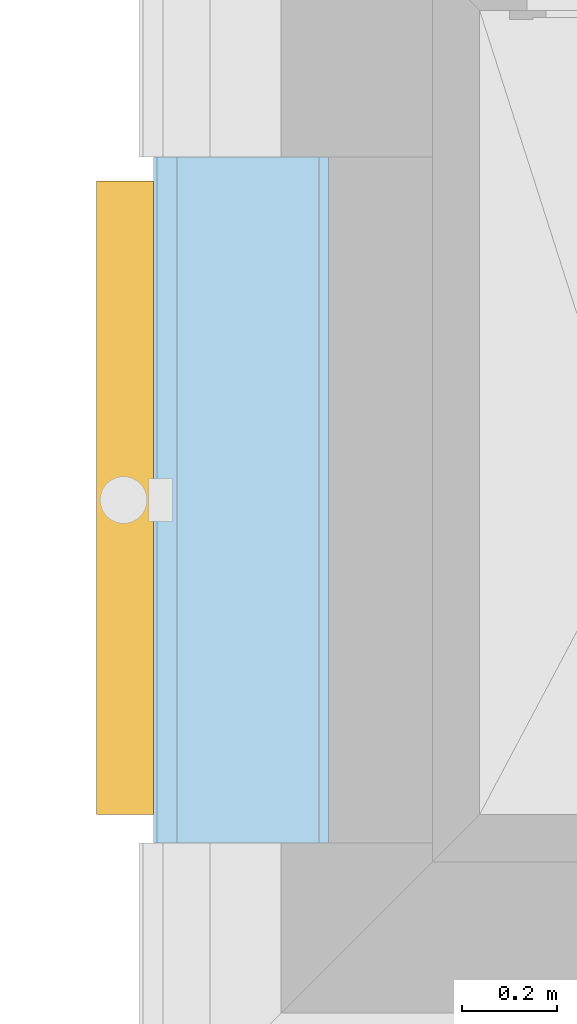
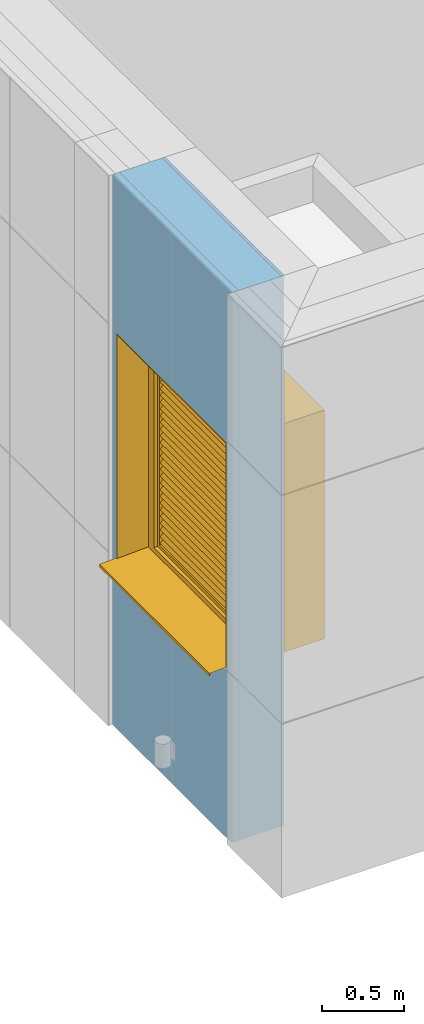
# One storey, part 112 of 418: 1 window, 2 openings, 1 element without a shape of its own, plus 4 elements that do not belong to this part.
"""IFC2X3 building model written with IfcOpenShell, lengths in millimetres."""

from ifc_helpers import new_model, entity, si_unit, converted_unit, derived_unit, money_unit, direction, frame, origin_with_axes, origin_2d_with_axis, place, context, subcontext, project, spatial, polyline, rectangle, outline, extrude, open_shell, faceted_brep, surface_model, material, type_object, element, fill, aggregate, save


model = new_model("IFC2X3")

# Units and contexts
model_context = context("Model", 3, precision=0.01, world=origin_with_axes(), true_north=direction((0.0, 1.0)))
body_context = subcontext(model_context, "Body", "Model", "MODEL_VIEW")
ifc_project = project(units=[si_unit("LENGTHUNIT", "METRE", prefix="MILLI"), si_unit("AREAUNIT", "SQUARE_METRE"), si_unit("VOLUMEUNIT", "CUBIC_METRE"), converted_unit("PLANEANGLEUNIT", "DEGREE", entity("IfcPlaneAngleMeasure", 0.0174532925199), si_unit("PLANEANGLEUNIT", "RADIAN"), dimensions=[0, 0, 0, 0, 0, 0, 0]), si_unit("SOLIDANGLEUNIT", "STERADIAN"), money_unit("EUR"), converted_unit("TIMEUNIT", "Year", entity("IfcTimeMeasure", 31556926.0), si_unit("TIMEUNIT", "SECOND"), dimensions=[0, 0, 1, 0, 0, 0, 0]), si_unit("MASSUNIT", "GRAM", prefix="KILO"), si_unit("THERMODYNAMICTEMPERATUREUNIT", "DEGREE_CELSIUS"), si_unit("LUMINOUSINTENSITYUNIT", "LUMEN"), si_unit("ENERGYUNIT", "JOULE", prefix="MEGA"), derived_unit("THERMALCONDUCTANCEUNIT", [(si_unit("POWERUNIT", "WATT"), 1), (si_unit("LENGTHUNIT", "METRE"), -1), (si_unit("THERMODYNAMICTEMPERATUREUNIT", "KELVIN"), -1)]), derived_unit("SPECIFICHEATCAPACITYUNIT", [(si_unit("ENERGYUNIT", "JOULE"), 1), (si_unit("MASSUNIT", "GRAM", prefix="KILO"), -1), (si_unit("THERMODYNAMICTEMPERATUREUNIT", "KELVIN"), -1)]), derived_unit("MASSDENSITYUNIT", [(si_unit("MASSUNIT", "GRAM", prefix="KILO"), 1), (si_unit("VOLUMEUNIT", "CUBIC_METRE"), -1)])], contexts=[model_context])

# Site, building, storey
site_placement = place(None, origin_with_axes())
site = spatial("IfcSite", under=ifc_project, at=site_placement, Name="Paldiski mnt 245/1, Tallinn, Harjumaa", CompositionType="COMPLEX")
building_placement = place(site_placement, origin_with_axes())
building = spatial("IfcBuilding", under=site, at=building_placement, Name="RKAS Hoone üldnimetus (kasutust iseloomustav) -> IFC Project Manager -> SOLIBRI", CompositionType="ELEMENT")
storey_placement = place(building_placement, origin_with_axes())
storey = spatial("IfcBuildingStorey", under=building, at=storey_placement, Name="Esimene korrus", CompositionType="ELEMENT", Elevation=0.0)

# Window
window_style = type_object("IfcWindowStyle", Name="Window 23", ConstructionType="NOTDEFINED", OperationType="SINGLE_PANEL", ParameterTakesPrecedence=False, Sizeable=False)
wall_placement = place(storey_placement, frame((-56609.9999767, 1619.99992126, 0.0), z_axis=(0.0, 0.0, 1.0), x_axis=(0.0, -1.0, 0.0)))
opening_1_placement = place(wall_placement, frame((719.999960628, 0.0, 1240.0), z_axis=(0.0, 0.0, 1.0), x_axis=(1.0, 0.0, 0.0)))
window_placement = place(opening_1_placement, frame((-669.999960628, 0.0, 0.0), z_axis=(0.0, 0.0, 1.0), x_axis=(1.0, 0.0, 0.0)))
window = element("IfcWindow", 1, at=window_placement, inside=storey, type_object=window_style, Name="VR-01", ObjectType="WINDOW", OverallHeight=1700.0, OverallWidth=1340.0, context=body_context, shape_type="SurfaceModel", body=[
    surface_model("IfcShellBasedSurfaceModel", [(1339.99992126, -151.0, 50.0), (0.0, -151.0, 50.0), (0.0, -151.0, 40.0), (1339.99992126, -151.0, 40.0), (0.0, -490.0, 24.5454545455), (1339.99992126, -490.0, 24.5454545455), (0.0, -490.0, 4.54545454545), (1339.99992126, -490.0, 4.54545454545), (0.0, -480.0, 14.5454545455), (1339.99992126, -480.0, 14.5454545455)], [open_shell([[[0, 1, 2, 3]], [[3, 2, 4, 5]], [[5, 4, 6, 7]], [[7, 6, 8, 9]]])]),
    faceted_brep([(0.0, -100.0, 0.0), (0.0, -100.0, 50.0), (0.0, 0.0, 41.2282460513), (0.0, 0.0, 0.0), (1339.99992126, -99.9999999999, 0.0), (1339.99992126, -99.9999999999, 50.0), (1339.99992126, 0.0, 41.2282460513), (1339.99992126, 320.0, 13.1586334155), (0.0, 320.0, 13.1586334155), (0.0, 320.0, 0.0), (1339.99992126, 320.0, 0.0), (1339.99992126, 0.0, 0.0)], [[[0, 1, 2, 3]], [[4, 5, 1, 0]], [[1, 5, 6, 7, 8, 2]], [[3, 2, 8, 9]], [[0, 3, 9, 10, 11, 4]], [[11, 6, 5, 4]], [[10, 7, 6, 11]], [[9, 8, 7, 10]]]),
    faceted_brep([(1339.99992126, -99.9999999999, 49.9912282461), (1339.99992126, -99.9999999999, 1700.0), (1289.99992126, -99.9999999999, 1650.0), (1289.99992126, -99.9999999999, 49.9912282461), (1339.99992126, 0.0, 41.2194742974), (1339.99992126, 0.0, 1700.0), (1289.99992126, 0.0, 1650.0), (1289.99992126, 0.0, 41.2194742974)], [[[0, 1, 2, 3]], [[4, 5, 1, 0]], [[6, 2, 1, 5]], [[3, 2, 6, 7]], [[7, 4, 0, 3]], [[7, 6, 5, 4]]]),
    faceted_brep([(50.0, -100.0, 49.9912282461), (50.0, -100.0, 1650.0), (0.0, -100.0, 1700.0), (0.0, -100.0, 49.9912282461), (50.0, 0.0, 41.2194742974), (50.0, 0.0, 1650.0), (0.0, 0.0, 1700.0), (0.0, 0.0, 41.2194742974)], [[[0, 1, 2, 3]], [[4, 5, 1, 0]], [[6, 2, 1, 5]], [[3, 2, 6, 7]], [[7, 4, 0, 3]], [[7, 6, 5, 4]]]),
    faceted_brep([(1289.99992126, -99.9999999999, 1650.0), (50.0, -100.0, 1650.0), (50.0, 0.0, 1650.0), (1289.99992126, 0.0, 1650.0), (1339.99992126, -99.9999999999, 1700.0), (0.0, -100.0, 1700.0), (0.0, 0.0, 1700.0), (1339.99992126, 0.0, 1700.0)], [[[0, 1, 2, 3]], [[0, 4, 5, 1]], [[1, 5, 6, 2]], [[3, 2, 6, 7]], [[4, 0, 3, 7]], [[5, 4, 7, 6]]]),
    faceted_brep([(1339.99992126, 0.0, 41.2194742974), (1339.99992126, 0.0, 1700.0), (1289.99992126, 0.0, 1650.0), (1289.99992126, 0.0, 41.2194742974), (1339.99992126, 320.0, 13.1498616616), (1339.99992126, 320.0, 1700.0), (1289.99992126, 320.0, 1650.0), (1289.99992126, 320.0, 13.1498616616)], [[[0, 1, 2, 3]], [[4, 5, 1, 0]], [[5, 6, 2, 1]], [[3, 2, 6, 7]], [[7, 4, 0, 3]], [[7, 6, 5, 4]]]),
    faceted_brep([(50.0, 0.0, 41.2194742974), (50.0, 0.0, 1650.0), (0.0, 0.0, 1700.0), (0.0, 0.0, 41.2194742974), (50.0, 320.0, 13.1498616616), (50.0, 320.0, 1650.0), (0.0, 320.0, 1700.0), (0.0, 320.0, 13.1498616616)], [[[0, 1, 2, 3]], [[4, 5, 1, 0]], [[5, 6, 2, 1]], [[3, 2, 6, 7]], [[7, 4, 0, 3]], [[7, 6, 5, 4]]]),
    faceted_brep([(1339.99992126, 320.0, 1700.0), (1339.99992126, 0.0, 1700.0), (1289.99992126, 0.0, 1650.0), (1289.99992126, 320.0, 1650.0), (0.0, 320.0, 1700.0), (0.0, 0.0, 1700.0), (50.0, 0.0, 1650.0), (50.0, 320.0, 1650.0)], [[[0, 1, 2, 3]], [[4, 5, 1, 0]], [[1, 5, 6, 2]], [[3, 2, 6, 7]], [[0, 3, 7, 4]], [[7, 6, 5, 4]]]),
    faceted_brep([(1331.99992126, -150.0, 4.54545454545), (1331.99992126, -150.0, 0.0), (1331.99992126, -370.0, 0.0), (1331.99992126, -370.0, 4.54545454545), (1339.99992126, -150.0, 4.54545454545), (1339.99992126, -150.0, 0.0), (1339.99992126, -370.0, 0.0), (1339.99992126, -370.0, 4.54545454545)], [[[0, 1, 2, 3]], [[4, 5, 1, 0]], [[1, 5, 6, 2]], [[3, 2, 6, 7]], [[7, 4, 0, 3]], [[7, 6, 5, 4]]]),
    faceted_brep([(1331.99992126, -370.0, 30.0160901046), (1331.99992126, -370.0, 1692.0), (1331.99992126, -150.0, 1692.0), (1331.99992126, -150.0, 50.0), (1331.99992126, -151.0, 50.0), (1331.99992126, -151.0, 40.0), (1339.99992126, -370.0, 30.0160901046), (1339.99992126, -370.0, 1700.0), (1339.99992126, -150.0, 1700.0), (1339.99992126, -150.0, 50.0), (1339.99992126, -151.0, 50.0), (1339.99992126, -151.0, 40.0)], [[[0, 1, 2, 3, 4, 5]], [[6, 7, 1, 0]], [[8, 2, 1, 7]], [[3, 2, 8, 9]], [[3, 9, 10, 4]], [[4, 10, 11, 5]], [[5, 11, 6, 0]], [[11, 10, 9, 8, 7, 6]]]),
    faceted_brep([(0.0, -150.0, 4.54545454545), (0.0, -150.0, 0.0), (0.0, -370.0, 0.0), (0.0, -370.0, 4.54545454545), (7.99999999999, -150.0, 4.54545454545), (7.99999999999, -150.0, 0.0), (8.0, -370.0, 0.0), (8.0, -370.0, 4.54545454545)], [[[0, 1, 2, 3]], [[4, 5, 1, 0]], [[1, 5, 6, 2]], [[3, 2, 6, 7]], [[7, 4, 0, 3]], [[7, 6, 5, 4]]]),
    faceted_brep([(0.0, -370.0, 30.0160901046), (0.0, -370.0, 1700.0), (0.0, -150.0, 1700.0), (0.0, -150.0, 50.0), (0.0, -151.0, 50.0), (0.0, -151.0, 40.0), (8.0, -370.0, 30.0160901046), (8.0, -370.0, 1692.0), (7.99999999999, -150.0, 1692.0), (7.99999999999, -150.0, 50.0), (7.99999999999, -151.0, 50.0), (7.99999999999, -151.0, 40.0)], [[[0, 1, 2, 3, 4, 5]], [[6, 7, 1, 0]], [[8, 2, 1, 7]], [[3, 2, 8, 9]], [[3, 9, 10, 4]], [[4, 10, 11, 5]], [[5, 11, 6, 0]], [[11, 10, 9, 8, 7, 6]]]),
    faceted_brep([(1339.99992126, -150.0, 1700.0), (1339.99992126, -370.0, 1700.0), (1331.99992126, -370.0, 1692.0), (1331.99992126, -150.0, 1692.0), (0.0, -150.0, 1700.0), (0.0, -370.0, 1700.0), (8.0, -370.0, 1692.0), (7.99999999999, -150.0, 1692.0)], [[[0, 1, 2, 3]], [[4, 5, 1, 0]], [[1, 5, 6, 2]], [[3, 2, 6, 7]], [[0, 3, 7, 4]], [[7, 6, 5, 4]]]),
    faceted_brep([(1289.99992126, -99.9999999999, 1625.0), (1289.99992126, -125.0, 1625.0), (1264.99992126, -125.0, 1625.0), (1264.99992126, -150.0, 1625.0), (1339.99992126, -150.0, 1625.0), (1339.99992126, -99.9999999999, 1625.0), (1289.99992126, -99.9999999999, 75.0), (1289.99992126, -125.0, 75.0), (1264.99992126, -125.0, 75.0), (1264.99992126, -150.0, 75.0), (1339.99992126, -150.0, 75.0), (1339.99992126, -99.9999999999, 75.0)], [[[0, 1, 2, 3, 4, 5]], [[1, 0, 6, 7]], [[8, 2, 1, 7]], [[2, 8, 9, 3]], [[4, 3, 9, 10]], [[5, 4, 10, 11]], [[6, 0, 5, 11]], [[7, 6, 11, 10, 9, 8]]]),
    faceted_brep([(75.0, -125.0, 1625.0), (50.0, -125.0, 1625.0), (50.0, -100.0, 1625.0), (0.0, -100.0, 1625.0), (0.0, -150.0, 1625.0), (75.0, -150.0, 1625.0), (75.0, -125.0, 75.0), (50.0, -125.0, 75.0), (50.0, -100.0, 75.0), (0.0, -100.0, 75.0), (0.0, -150.0, 75.0), (75.0, -150.0, 75.0)], [[[0, 1, 2, 3, 4, 5]], [[1, 0, 6, 7]], [[8, 2, 1, 7]], [[2, 8, 9, 3]], [[9, 10, 4, 3]], [[10, 11, 5, 4]], [[6, 0, 5, 11]], [[7, 6, 11, 10, 9, 8]]]),
    faceted_brep([(75.0, -125.0, 75.0), (50.0, -125.0, 75.0), (50.0, -100.0, 75.0), (0.0, -100.0, 75.0), (0.0, -150.0, 75.0), (75.0, -150.0, 75.0), (1264.99992126, -125.0, 75.0), (1289.99992126, -125.0, 75.0), (1289.99992126, -125.0, 50.0), (50.0, -125.0, 50.0), (50.0, -100.0, 50.0), (1289.99992126, -99.9999999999, 50.0), (1289.99992126, -99.9999999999, 75.0), (1339.99992126, -99.9999999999, 75.0), (1339.99992126, -99.9999999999, 0.0), (0.0, -100.0, 0.0), (0.0, -150.0, 0.0), (1339.99992126, -150.0, 75.0), (1264.99992126, -150.0, 75.0), (1339.99992126, -150.0, 0.0)], [[[0, 1, 2, 3, 4, 5]], [[1, 0, 6, 7, 8, 9]], [[10, 2, 1, 9]], [[11, 12, 13, 14, 15, 3, 2, 10]], [[15, 16, 4, 3]], [[17, 18, 5, 4, 16, 19]], [[6, 0, 5, 18]], [[7, 6, 18, 17, 13, 12]], [[7, 12, 11, 8]], [[11, 10, 9, 8]], [[13, 17, 19, 14]], [[14, 19, 16, 15]]]),
    faceted_brep([(1289.99992126, -99.9999999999, 1625.0), (1289.99992126, -99.9999999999, 1650.0), (50.0, -100.0, 1650.0), (50.0, -100.0, 1625.0), (0.0, -100.0, 1625.0), (0.0, -100.0, 1700.0), (1339.99992126, -99.9999999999, 1700.0), (1339.99992126, -99.9999999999, 1625.0), (1289.99992126, -125.0, 1625.0), (1289.99992126, -125.0, 1650.0), (50.0, -125.0, 1650.0), (50.0, -125.0, 1625.0), (75.0, -125.0, 1625.0), (75.0, -150.0, 1625.0), (0.0, -150.0, 1625.0), (0.0, -150.0, 1700.0), (1339.99992126, -150.0, 1700.0), (1339.99992126, -150.0, 1625.0), (1264.99992126, -150.0, 1625.0), (1264.99992126, -125.0, 1625.0)], [[[0, 1, 2, 3, 4, 5, 6, 7]], [[1, 0, 8, 9]], [[2, 1, 9, 10]], [[3, 2, 10, 11]], [[11, 12, 13, 14, 4, 3]], [[4, 14, 15, 5]], [[5, 15, 16, 6]], [[6, 16, 17, 7]], [[8, 0, 7, 17, 18, 19]], [[12, 11, 10, 9, 8, 19]], [[12, 19, 18, 13]], [[14, 13, 18, 17, 16, 15]]]),
    faceted_brep([(1239.99992126, -125.0, 1600.0), (1289.99992126, -125.0, 1600.0), (1289.99992126, -74.9999999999, 1600.0), (1239.99992126, -74.9999999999, 1600.0), (1239.99992126, -125.0, 100.0), (1289.99992126, -125.0, 100.0), (1289.99992126, -74.9999999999, 100.0), (1239.99992126, -74.9999999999, 100.0)], [[[0, 1, 2, 3]], [[0, 4, 5, 1]], [[1, 5, 6, 2]], [[3, 2, 6, 7]], [[4, 0, 3, 7]], [[5, 4, 7, 6]]]),
    faceted_brep([(100.0, -125.0, 100.0), (50.0, -125.0, 100.0), (50.0, -75.0, 100.0), (100.0, -75.0, 100.0), (100.0, -125.0, 1600.0), (50.0, -125.0, 1600.0), (50.0, -75.0, 1600.0), (100.0, -75.0, 1600.0)], [[[0, 1, 2, 3]], [[0, 4, 5, 1]], [[1, 5, 6, 2]], [[3, 2, 6, 7]], [[4, 0, 3, 7]], [[5, 4, 7, 6]]]),
    faceted_brep([(50.0, -125.0, 50.0), (50.0, -125.0, 100.0), (50.0, -75.0, 100.0), (50.0, -75.0, 50.0), (1289.99992126, -125.0, 50.0), (1289.99992126, -125.0, 100.0), (1239.99992126, -125.0, 100.0), (100.0, -125.0, 100.0), (100.0, -75.0, 100.0), (1239.99992126, -74.9999999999, 100.0), (1289.99992126, -74.9999999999, 100.0), (1289.99992126, -74.9999999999, 50.0)], [[[0, 1, 2, 3]], [[0, 4, 5, 6, 7, 1]], [[1, 7, 8, 2]], [[3, 2, 8, 9, 10, 11]], [[4, 0, 3, 11]], [[5, 4, 11, 10]], [[6, 5, 10, 9]], [[7, 6, 9, 8]]]),
    faceted_brep([(1289.99992126, -125.0, 1650.0), (1289.99992126, -125.0, 1600.0), (1289.99992126, -74.9999999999, 1600.0), (1289.99992126, -74.9999999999, 1650.0), (50.0, -125.0, 1650.0), (50.0, -125.0, 1600.0), (100.0, -125.0, 1600.0), (1239.99992126, -125.0, 1600.0), (1239.99992126, -74.9999999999, 1600.0), (100.0, -75.0, 1600.0), (50.0, -75.0, 1600.0), (50.0, -75.0, 1650.0)], [[[0, 1, 2, 3]], [[0, 4, 5, 6, 7, 1]], [[1, 7, 8, 2]], [[3, 2, 8, 9, 10, 11]], [[4, 0, 3, 11]], [[5, 4, 11, 10]], [[6, 5, 10, 9]], [[7, 6, 9, 8]]]),
    faceted_brep([(1239.99992126, -114.142135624, 103.786796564), (100.0, -114.142135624, 103.786796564), (100.0, -78.7867965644, 139.142135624), (1239.99992126, -78.7867965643, 139.142135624), (1239.99992126, -121.213203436, 110.857864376), (100.0, -121.213203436, 110.857864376), (100.0, -85.8578643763, 146.213203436), (1239.99992126, -85.8578643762, 146.213203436)], [[[0, 1, 2, 3]], [[4, 5, 1, 0]], [[1, 5, 6, 2]], [[3, 2, 6, 7]], [[0, 3, 7, 4]], [[7, 6, 5, 4]]]),
    faceted_brep([(1239.99992126, -114.142135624, 153.786796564), (100.0, -114.142135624, 153.786796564), (100.0, -78.7867965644, 189.142135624), (1239.99992126, -78.7867965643, 189.142135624), (1239.99992126, -121.213203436, 160.857864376), (100.0, -121.213203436, 160.857864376), (100.0, -85.8578643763, 196.213203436), (1239.99992126, -85.8578643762, 196.213203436)], [[[0, 1, 2, 3]], [[4, 5, 1, 0]], [[1, 5, 6, 2]], [[3, 2, 6, 7]], [[0, 3, 7, 4]], [[7, 6, 5, 4]]]),
    faceted_brep([(1239.99992126, -114.142135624, 203.786796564), (100.0, -114.142135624, 203.786796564), (100.0, -78.7867965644, 239.142135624), (1239.99992126, -78.7867965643, 239.142135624), (1239.99992126, -121.213203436, 210.857864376), (100.0, -121.213203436, 210.857864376), (100.0, -85.8578643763, 246.213203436), (1239.99992126, -85.8578643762, 246.213203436)], [[[0, 1, 2, 3]], [[4, 5, 1, 0]], [[1, 5, 6, 2]], [[3, 2, 6, 7]], [[0, 3, 7, 4]], [[7, 6, 5, 4]]]),
    faceted_brep([(1239.99992126, -114.142135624, 253.786796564), (100.0, -114.142135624, 253.786796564), (100.0, -78.7867965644, 289.142135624), (1239.99992126, -78.7867965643, 289.142135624), (1239.99992126, -121.213203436, 260.857864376), (100.0, -121.213203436, 260.857864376), (100.0, -85.8578643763, 296.213203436), (1239.99992126, -85.8578643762, 296.213203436)], [[[0, 1, 2, 3]], [[4, 5, 1, 0]], [[1, 5, 6, 2]], [[3, 2, 6, 7]], [[0, 3, 7, 4]], [[7, 6, 5, 4]]]),
    faceted_brep([(1239.99992126, -114.142135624, 303.786796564), (100.0, -114.142135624, 303.786796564), (100.0, -78.7867965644, 339.142135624), (1239.99992126, -78.7867965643, 339.142135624), (1239.99992126, -121.213203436, 310.857864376), (100.0, -121.213203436, 310.857864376), (100.0, -85.8578643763, 346.213203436), (1239.99992126, -85.8578643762, 346.213203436)], [[[0, 1, 2, 3]], [[4, 5, 1, 0]], [[1, 5, 6, 2]], [[3, 2, 6, 7]], [[0, 3, 7, 4]], [[7, 6, 5, 4]]]),
    faceted_brep([(1239.99992126, -114.142135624, 353.786796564), (100.0, -114.142135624, 353.786796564), (100.0, -78.7867965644, 389.142135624), (1239.99992126, -78.7867965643, 389.142135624), (1239.99992126, -121.213203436, 360.857864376), (100.0, -121.213203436, 360.857864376), (100.0, -85.8578643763, 396.213203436), (1239.99992126, -85.8578643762, 396.213203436)], [[[0, 1, 2, 3]], [[4, 5, 1, 0]], [[1, 5, 6, 2]], [[3, 2, 6, 7]], [[0, 3, 7, 4]], [[7, 6, 5, 4]]]),
    faceted_brep([(1239.99992126, -114.142135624, 403.786796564), (100.0, -114.142135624, 403.786796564), (100.0, -78.7867965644, 439.142135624), (1239.99992126, -78.7867965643, 439.142135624), (1239.99992126, -121.213203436, 410.857864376), (100.0, -121.213203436, 410.857864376), (100.0, -85.8578643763, 446.213203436), (1239.99992126, -85.8578643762, 446.213203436)], [[[0, 1, 2, 3]], [[4, 5, 1, 0]], [[1, 5, 6, 2]], [[3, 2, 6, 7]], [[0, 3, 7, 4]], [[7, 6, 5, 4]]]),
    faceted_brep([(1239.99992126, -114.142135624, 453.786796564), (100.0, -114.142135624, 453.786796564), (100.0, -78.7867965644, 489.142135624), (1239.99992126, -78.7867965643, 489.142135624), (1239.99992126, -121.213203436, 460.857864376), (100.0, -121.213203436, 460.857864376), (100.0, -85.8578643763, 496.213203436), (1239.99992126, -85.8578643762, 496.213203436)], [[[0, 1, 2, 3]], [[4, 5, 1, 0]], [[1, 5, 6, 2]], [[3, 2, 6, 7]], [[0, 3, 7, 4]], [[7, 6, 5, 4]]]),
    faceted_brep([(1239.99992126, -114.142135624, 503.786796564), (100.0, -114.142135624, 503.786796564), (100.0, -78.7867965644, 539.142135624), (1239.99992126, -78.7867965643, 539.142135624), (1239.99992126, -121.213203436, 510.857864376), (100.0, -121.213203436, 510.857864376), (100.0, -85.8578643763, 546.213203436), (1239.99992126, -85.8578643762, 546.213203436)], [[[0, 1, 2, 3]], [[4, 5, 1, 0]], [[1, 5, 6, 2]], [[3, 2, 6, 7]], [[0, 3, 7, 4]], [[7, 6, 5, 4]]]),
    faceted_brep([(1239.99992126, -114.142135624, 553.786796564), (100.0, -114.142135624, 553.786796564), (100.0, -78.7867965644, 589.142135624), (1239.99992126, -78.7867965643, 589.142135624), (1239.99992126, -121.213203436, 560.857864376), (100.0, -121.213203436, 560.857864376), (100.0, -85.8578643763, 596.213203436), (1239.99992126, -85.8578643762, 596.213203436)], [[[0, 1, 2, 3]], [[4, 5, 1, 0]], [[1, 5, 6, 2]], [[3, 2, 6, 7]], [[0, 3, 7, 4]], [[7, 6, 5, 4]]]),
    faceted_brep([(1239.99992126, -114.142135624, 603.786796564), (100.0, -114.142135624, 603.786796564), (100.0, -78.7867965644, 639.142135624), (1239.99992126, -78.7867965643, 639.142135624), (1239.99992126, -121.213203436, 610.857864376), (100.0, -121.213203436, 610.857864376), (100.0, -85.8578643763, 646.213203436), (1239.99992126, -85.8578643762, 646.213203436)], [[[0, 1, 2, 3]], [[4, 5, 1, 0]], [[1, 5, 6, 2]], [[3, 2, 6, 7]], [[0, 3, 7, 4]], [[7, 6, 5, 4]]]),
    faceted_brep([(1239.99992126, -114.142135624, 653.786796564), (100.0, -114.142135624, 653.786796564), (100.0, -78.7867965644, 689.142135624), (1239.99992126, -78.7867965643, 689.142135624), (1239.99992126, -121.213203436, 660.857864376), (100.0, -121.213203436, 660.857864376), (100.0, -85.8578643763, 696.213203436), (1239.99992126, -85.8578643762, 696.213203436)], [[[0, 1, 2, 3]], [[4, 5, 1, 0]], [[1, 5, 6, 2]], [[3, 2, 6, 7]], [[0, 3, 7, 4]], [[7, 6, 5, 4]]]),
    faceted_brep([(1239.99992126, -114.142135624, 703.786796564), (100.0, -114.142135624, 703.786796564), (100.0, -78.7867965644, 739.142135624), (1239.99992126, -78.7867965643, 739.142135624), (1239.99992126, -121.213203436, 710.857864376), (100.0, -121.213203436, 710.857864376), (100.0, -85.8578643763, 746.213203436), (1239.99992126, -85.8578643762, 746.213203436)], [[[0, 1, 2, 3]], [[4, 5, 1, 0]], [[1, 5, 6, 2]], [[3, 2, 6, 7]], [[0, 3, 7, 4]], [[7, 6, 5, 4]]]),
    faceted_brep([(1239.99992126, -114.142135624, 753.786796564), (100.0, -114.142135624, 753.786796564), (100.0, -78.7867965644, 789.142135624), (1239.99992126, -78.7867965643, 789.142135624), (1239.99992126, -121.213203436, 760.857864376), (100.0, -121.213203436, 760.857864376), (100.0, -85.8578643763, 796.213203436), (1239.99992126, -85.8578643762, 796.213203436)], [[[0, 1, 2, 3]], [[4, 5, 1, 0]], [[1, 5, 6, 2]], [[3, 2, 6, 7]], [[0, 3, 7, 4]], [[7, 6, 5, 4]]]),
    faceted_brep([(1239.99992126, -114.142135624, 803.786796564), (100.0, -114.142135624, 803.786796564), (100.0, -78.7867965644, 839.142135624), (1239.99992126, -78.7867965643, 839.142135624), (1239.99992126, -121.213203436, 810.857864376), (100.0, -121.213203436, 810.857864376), (100.0, -85.8578643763, 846.213203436), (1239.99992126, -85.8578643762, 846.213203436)], [[[0, 1, 2, 3]], [[4, 5, 1, 0]], [[1, 5, 6, 2]], [[3, 2, 6, 7]], [[0, 3, 7, 4]], [[7, 6, 5, 4]]]),
    faceted_brep([(1239.99992126, -114.142135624, 853.786796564), (100.0, -114.142135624, 853.786796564), (100.0, -78.7867965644, 889.142135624), (1239.99992126, -78.7867965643, 889.142135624), (1239.99992126, -121.213203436, 860.857864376), (100.0, -121.213203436, 860.857864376), (100.0, -85.8578643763, 896.213203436), (1239.99992126, -85.8578643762, 896.213203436)], [[[0, 1, 2, 3]], [[4, 5, 1, 0]], [[1, 5, 6, 2]], [[3, 2, 6, 7]], [[0, 3, 7, 4]], [[7, 6, 5, 4]]]),
    faceted_brep([(1239.99992126, -114.142135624, 903.786796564), (100.0, -114.142135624, 903.786796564), (100.0, -78.7867965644, 939.142135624), (1239.99992126, -78.7867965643, 939.142135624), (1239.99992126, -121.213203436, 910.857864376), (100.0, -121.213203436, 910.857864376), (100.0, -85.8578643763, 946.213203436), (1239.99992126, -85.8578643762, 946.213203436)], [[[0, 1, 2, 3]], [[4, 5, 1, 0]], [[1, 5, 6, 2]], [[3, 2, 6, 7]], [[0, 3, 7, 4]], [[7, 6, 5, 4]]]),
    faceted_brep([(1239.99992126, -114.142135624, 953.786796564), (100.0, -114.142135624, 953.786796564), (100.0, -78.7867965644, 989.142135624), (1239.99992126, -78.7867965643, 989.142135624), (1239.99992126, -121.213203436, 960.857864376), (100.0, -121.213203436, 960.857864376), (100.0, -85.8578643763, 996.213203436), (1239.99992126, -85.8578643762, 996.213203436)], [[[0, 1, 2, 3]], [[4, 5, 1, 0]], [[1, 5, 6, 2]], [[3, 2, 6, 7]], [[0, 3, 7, 4]], [[7, 6, 5, 4]]]),
    faceted_brep([(1239.99992126, -114.142135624, 1003.78679656), (100.0, -114.142135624, 1003.78679656), (100.0, -78.7867965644, 1039.14213562), (1239.99992126, -78.7867965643, 1039.14213562), (1239.99992126, -121.213203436, 1010.85786438), (100.0, -121.213203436, 1010.85786438), (100.0, -85.8578643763, 1046.21320344), (1239.99992126, -85.8578643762, 1046.21320344)], [[[0, 1, 2, 3]], [[4, 5, 1, 0]], [[1, 5, 6, 2]], [[3, 2, 6, 7]], [[0, 3, 7, 4]], [[7, 6, 5, 4]]]),
    faceted_brep([(1239.99992126, -114.142135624, 1053.78679656), (100.0, -114.142135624, 1053.78679656), (100.0, -78.7867965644, 1089.14213562), (1239.99992126, -78.7867965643, 1089.14213562), (1239.99992126, -121.213203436, 1060.85786438), (100.0, -121.213203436, 1060.85786438), (100.0, -85.8578643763, 1096.21320344), (1239.99992126, -85.8578643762, 1096.21320344)], [[[0, 1, 2, 3]], [[4, 5, 1, 0]], [[1, 5, 6, 2]], [[3, 2, 6, 7]], [[0, 3, 7, 4]], [[7, 6, 5, 4]]]),
    faceted_brep([(1239.99992126, -114.142135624, 1103.78679656), (100.0, -114.142135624, 1103.78679656), (100.0, -78.7867965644, 1139.14213562), (1239.99992126, -78.7867965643, 1139.14213562), (1239.99992126, -121.213203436, 1110.85786438), (100.0, -121.213203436, 1110.85786438), (100.0, -85.8578643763, 1146.21320344), (1239.99992126, -85.8578643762, 1146.21320344)], [[[0, 1, 2, 3]], [[4, 5, 1, 0]], [[1, 5, 6, 2]], [[3, 2, 6, 7]], [[0, 3, 7, 4]], [[7, 6, 5, 4]]]),
    faceted_brep([(1239.99992126, -114.142135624, 1153.78679656), (100.0, -114.142135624, 1153.78679656), (100.0, -78.7867965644, 1189.14213562), (1239.99992126, -78.7867965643, 1189.14213562), (1239.99992126, -121.213203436, 1160.85786438), (100.0, -121.213203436, 1160.85786438), (100.0, -85.8578643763, 1196.21320344), (1239.99992126, -85.8578643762, 1196.21320344)], [[[0, 1, 2, 3]], [[4, 5, 1, 0]], [[1, 5, 6, 2]], [[3, 2, 6, 7]], [[0, 3, 7, 4]], [[7, 6, 5, 4]]]),
    faceted_brep([(1239.99992126, -114.142135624, 1203.78679656), (100.0, -114.142135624, 1203.78679656), (100.0, -78.7867965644, 1239.14213562), (1239.99992126, -78.7867965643, 1239.14213562), (1239.99992126, -121.213203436, 1210.85786438), (100.0, -121.213203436, 1210.85786438), (100.0, -85.8578643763, 1246.21320344), (1239.99992126, -85.8578643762, 1246.21320344)], [[[0, 1, 2, 3]], [[4, 5, 1, 0]], [[1, 5, 6, 2]], [[3, 2, 6, 7]], [[0, 3, 7, 4]], [[7, 6, 5, 4]]]),
    faceted_brep([(1239.99992126, -114.142135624, 1253.78679656), (100.0, -114.142135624, 1253.78679656), (100.0, -78.7867965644, 1289.14213562), (1239.99992126, -78.7867965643, 1289.14213562), (1239.99992126, -121.213203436, 1260.85786438), (100.0, -121.213203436, 1260.85786438), (100.0, -85.8578643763, 1296.21320344), (1239.99992126, -85.8578643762, 1296.21320344)], [[[0, 1, 2, 3]], [[4, 5, 1, 0]], [[1, 5, 6, 2]], [[3, 2, 6, 7]], [[0, 3, 7, 4]], [[7, 6, 5, 4]]]),
    faceted_brep([(1239.99992126, -114.142135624, 1303.78679656), (100.0, -114.142135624, 1303.78679656), (100.0, -78.7867965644, 1339.14213562), (1239.99992126, -78.7867965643, 1339.14213562), (1239.99992126, -121.213203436, 1310.85786438), (100.0, -121.213203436, 1310.85786438), (100.0, -85.8578643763, 1346.21320344), (1239.99992126, -85.8578643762, 1346.21320344)], [[[0, 1, 2, 3]], [[4, 5, 1, 0]], [[1, 5, 6, 2]], [[3, 2, 6, 7]], [[0, 3, 7, 4]], [[7, 6, 5, 4]]]),
    faceted_brep([(1239.99992126, -114.142135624, 1353.78679656), (100.0, -114.142135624, 1353.78679656), (100.0, -78.7867965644, 1389.14213562), (1239.99992126, -78.7867965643, 1389.14213562), (1239.99992126, -121.213203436, 1360.85786438), (100.0, -121.213203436, 1360.85786438), (100.0, -85.8578643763, 1396.21320344), (1239.99992126, -85.8578643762, 1396.21320344)], [[[0, 1, 2, 3]], [[4, 5, 1, 0]], [[1, 5, 6, 2]], [[3, 2, 6, 7]], [[0, 3, 7, 4]], [[7, 6, 5, 4]]]),
    faceted_brep([(1239.99992126, -114.142135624, 1403.78679656), (100.0, -114.142135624, 1403.78679656), (100.0, -78.7867965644, 1439.14213562), (1239.99992126, -78.7867965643, 1439.14213562), (1239.99992126, -121.213203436, 1410.85786438), (100.0, -121.213203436, 1410.85786438), (100.0, -85.8578643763, 1446.21320344), (1239.99992126, -85.8578643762, 1446.21320344)], [[[0, 1, 2, 3]], [[4, 5, 1, 0]], [[1, 5, 6, 2]], [[3, 2, 6, 7]], [[0, 3, 7, 4]], [[7, 6, 5, 4]]]),
    faceted_brep([(1239.99992126, -114.142135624, 1453.78679656), (100.0, -114.142135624, 1453.78679656), (100.0, -78.7867965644, 1489.14213562), (1239.99992126, -78.7867965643, 1489.14213562), (1239.99992126, -121.213203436, 1460.85786438), (100.0, -121.213203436, 1460.85786438), (100.0, -85.8578643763, 1496.21320344), (1239.99992126, -85.8578643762, 1496.21320344)], [[[0, 1, 2, 3]], [[4, 5, 1, 0]], [[1, 5, 6, 2]], [[3, 2, 6, 7]], [[0, 3, 7, 4]], [[7, 6, 5, 4]]]),
    faceted_brep([(1239.99992126, -114.142135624, 1503.78679656), (100.0, -114.142135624, 1503.78679656), (100.0, -78.7867965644, 1539.14213562), (1239.99992126, -78.7867965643, 1539.14213562), (1239.99992126, -121.213203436, 1510.85786438), (100.0, -121.213203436, 1510.85786438), (100.0, -85.8578643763, 1546.21320344), (1239.99992126, -85.8578643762, 1546.21320344)], [[[0, 1, 2, 3]], [[4, 5, 1, 0]], [[1, 5, 6, 2]], [[3, 2, 6, 7]], [[0, 3, 7, 4]], [[7, 6, 5, 4]]]),
    faceted_brep([(1239.99992126, -114.142135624, 1553.78679656), (100.0, -114.142135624, 1553.78679656), (100.0, -78.7867965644, 1589.14213562), (1239.99992126, -78.7867965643, 1589.14213562), (1239.99992126, -121.213203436, 1560.85786438), (100.0, -121.213203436, 1560.85786438), (100.0, -85.8578643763, 1596.21320344), (1239.99992126, -85.8578643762, 1596.21320344)], [[[0, 1, 2, 3]], [[4, 5, 1, 0]], [[1, 5, 6, 2]], [[3, 2, 6, 7]], [[0, 3, 7, 4]], [[7, 6, 5, 4]]]),
])

# Wall, opening
wall_type = type_object("IfcWallType", Name="VS-08.1_uued_kihid 370", PredefinedType="NOTDEFINED")
wall = element("IfcWall", 2, at=wall_placement, inside=storey, type_object=wall_type, Name="VS-08.1")
opening_1 = element("IfcOpeningElement", 3, at=opening_1_placement, cuts=wall, Name="VR-01", context=body_context, shape_type="SweptSolid", body=[
    extrude(rectangle(XDim=1339.99992126, YDim=1700.0, at=origin_2d_with_axis()), frame((0.0, -150.0, 850.0), z_axis=(0.0, -1.0, 0.0), x_axis=(-1.0, 0.0, 0.0)), (0.0, 0.0, 1.0), 590.0),
    extrude(rectangle(XDim=1339.99992126, YDim=1700.0, at=origin_2d_with_axis()), frame((0.0, -150.0, 850.0), z_axis=(0.0, 1.0, 0.0), x_axis=(-1.0, 0.0, 0.0)), (0.0, 0.0, 1.0), 520.0),
    extrude(rectangle(XDim=1339.99992126, YDim=1700.0, at=origin_2d_with_axis()), frame((0.0, 0.0, 850.0), z_axis=(0.0, 1.0, 0.0), x_axis=(-1.0, 0.0, 0.0)), (0.0, 0.0, 1.0), 590.0),
])

fill(opening_1, window)

# Opening
opening_2_placement = place(wall_placement, frame((725.0, 0.0, 0.0), z_axis=(0.0, 0.0, 1.0), x_axis=(1.0, 0.0, 0.0)))
element("IfcOpeningElement", 4, at=opening_2_placement, cuts=wall, Name="Cembrit fassaadiplaadi vuuk", context=body_context, shape_type="SweptSolid", body=[
    extrude(outline(polyline([(-4.00000000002, 0.0), (3.99999999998, 0.0), (3.99999999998, 4090.0), (-4.00000000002, 4090.0), (-4.00000000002, 0.0)])), frame((0.0, -362.0, 0.0), z_axis=(0.0, -1.0, 0.0), x_axis=(1.0, 0.0, 0.0)), (0.0, 0.0, 1.0), 378.0),
])

# Building element part
ifc_material_1 = material(Name="Cembrit_C060")
building_element_part_1_placement = place(wall_placement, origin_with_axes())
building_element_part_1 = element("IfcBuildingElementPart", 5, at=building_element_part_1_placement, material=ifc_material_1, Name="Cembrit_C060", context=body_context, shape_type="SweptSolid", body=[
    extrude(outline(polyline([(0.0, -370.0), (1450.0, -370.0), (1450.0, -362.0), (0.0, -362.0), (0.0, -370.0)])), origin_with_axes(), (0.0, 0.0, 1.0), 4090.0),
])

ifc_material_2 = material(Name="VKR-06_Õhkvahe")
building_element_part_2_placement = place(wall_placement, origin_with_axes())
building_element_part_2 = element("IfcBuildingElementPart", 6, at=building_element_part_2_placement, material=ifc_material_2, Name="VKR-06_Õhkvahe", context=body_context, shape_type="SweptSolid", body=[
    extrude(outline(polyline([(0.0, -362.0), (1450.0, -362.0), (1450.0, -320.0), (0.0, -320.0), (0.0, -362.0)])), origin_with_axes(), (0.0, 0.0, 1.0), 4090.0),
])

ifc_material_3 = material(Name="Kingspan Kooltherm")
building_element_part_3_placement = place(wall_placement, origin_with_axes())
building_element_part_3 = element("IfcBuildingElementPart", 7, at=building_element_part_3_placement, material=ifc_material_3, Name="Kingspan Kooltherm", context=body_context, shape_type="SweptSolid", body=[
    extrude(outline(polyline([(0.0, -320.0), (1450.0, -320.0), (1450.0, -20.0), (0.0, -20.0), (0.0, -320.0)])), origin_with_axes(), (0.0, 0.0, 1.0), 4090.0),
])

ifc_material_4 = material(Name="Tasanduskrohv")
building_element_part_4_placement = place(wall_placement, origin_with_axes())
building_element_part_4 = element("IfcBuildingElementPart", 8, at=building_element_part_4_placement, material=ifc_material_4, Name="Tasanduskrohv", context=body_context, shape_type="SweptSolid", body=[
    extrude(outline(polyline([(0.0, -20.0), (1450.0, -20.0), (1450.0, 0.0), (0.0, 0.0), (0.0, -20.0)])), origin_with_axes(), (0.0, 0.0, 1.0), 4090.0),
])

aggregate(wall, [building_element_part_1, building_element_part_2, building_element_part_3, building_element_part_4])

save(model, "model.ifc")
